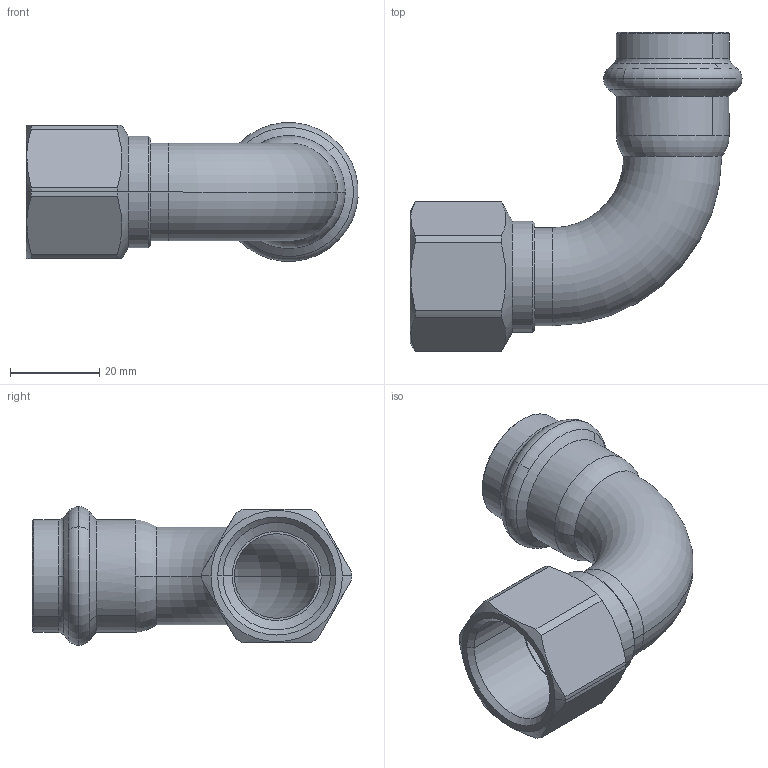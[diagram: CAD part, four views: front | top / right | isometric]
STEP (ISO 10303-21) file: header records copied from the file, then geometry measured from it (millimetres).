
FILE_DESCRIPTION(('CoCreate Modeling STEP Export'),'2;1');
FILE_NAME('8090GVW2234.stp','2013-03-05T11:36:26',(''),(''),'CoCreate Modeling STEP processor for AP214 (Solid Model)','CoCreate Modeling 17.00A 17-Jun-2010 (C) Parametric Technology GmbH','');
FILE_SCHEMA(('AUTOMOTIVE_DESIGN { 1 0 10303 214 1 1 1 1 }'));
Length unit declared in the file: millimetre
Products named in the file (2): 8090GVW2234
Assembly tree (1 placements, depth 2):
  8090GVW2234
    8090GVW2234
Bounding box: 74.54 x 71.64 x 31.08 mm (x, y, z)
Volume: 17446.6 mm3; surface area: 16182 mm2
Topology: 1 solids, 1 shells, 88 faces, 216 edges, 134 vertices
Faces by surface type: cylinder 34, cone 26, torus 16, plane 12
Entity records: 2981 total; most frequent: CARTESIAN_POINT 1218, ORIENTED_EDGE 432, DIRECTION 278, EDGE_CURVE 216, VERTEX_POINT 134, AXIS2_PLACEMENT_3D 106, EDGE_LOOP 94, FACE_OUTER_BOUND 88
